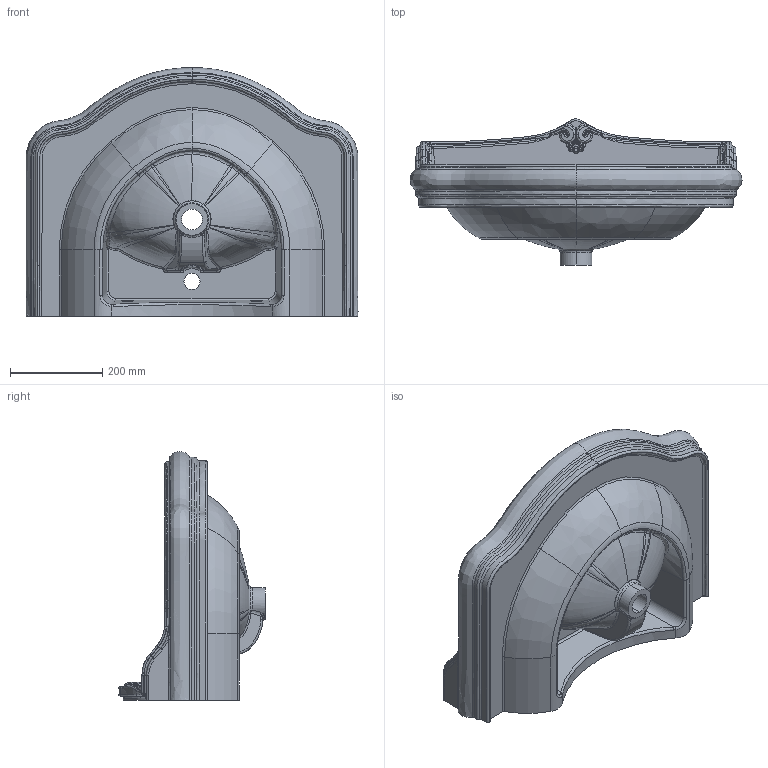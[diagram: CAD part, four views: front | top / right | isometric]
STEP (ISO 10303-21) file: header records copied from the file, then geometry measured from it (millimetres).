
FILE_DESCRIPTION (( 'STEP AP203' ), '1' );
FILE_NAME ('JULA07254T0M.STEP', '2022-04-07T07:22:59', ( '' ), ( '' ), 'SwSTEP 2.0', 'SolidWorks 2021', '' );
FILE_SCHEMA (( 'CONFIG_CONTROL_DESIGN' ));
Length unit declared in the file: millimetre
Products named in the file (1): JULA07254T0M
Bounding box: 719.33 x 316.97 x 539.31 mm (x, y, z)
Volume: 22751740.5 mm3; surface area: 1249952 mm2
Topology: 1 solids, 1 shells, 651 faces, 1598 edges, 910 vertices
Faces by surface type: bspline 369, cylinder 108, torus 95, plane 56, sphere 14, cone 9
Full cylindrical faces by diameter (mm): 35 x1
Entity records: 191517 total; most frequent: CARTESIAN_POINT 179281, ORIENTED_EDGE 3104, DIRECTION 1851, EDGE_CURVE 1552, VERTEX_POINT 905, AXIS2_PLACEMENT_3D 837, B_SPLINE_CURVE_WITH_KNOTS 707, EDGE_LOOP 661
